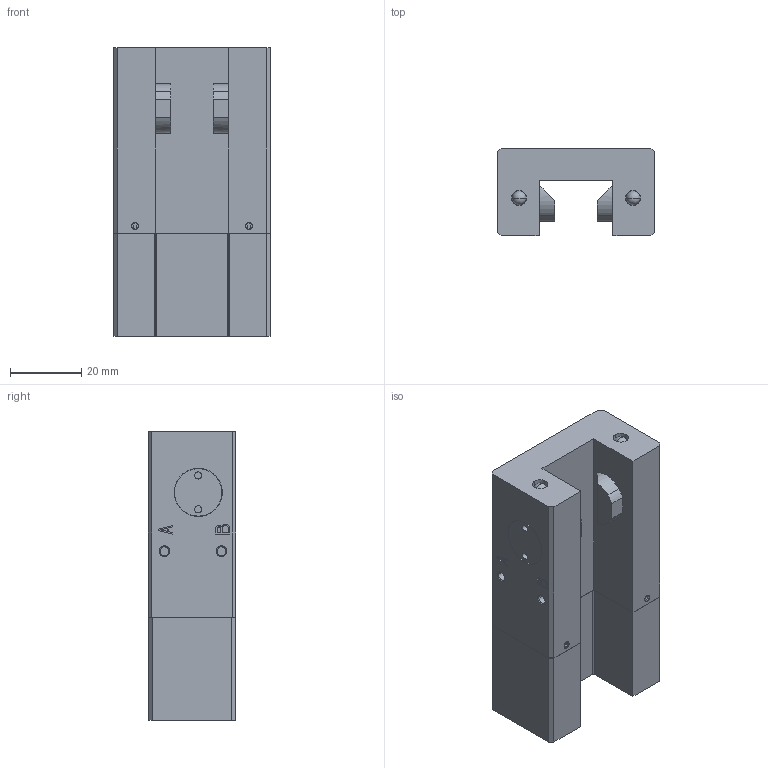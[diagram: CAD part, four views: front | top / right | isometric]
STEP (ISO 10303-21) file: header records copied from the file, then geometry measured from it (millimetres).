
FILE_DESCRIPTION( ( '' ), '1' );
FILE_NAME( 'E:/04 嬴檜蠱滌/0404 ZIMMER/040414 ZIMMER CAD download/LKPS/LKPS2005AS2---.stp', '2020-04-16T09:47:09', ( '' ), ( '' ), ' ', ' ', ' ' );
FILE_SCHEMA( ( 'automotive_design' ) );
Length unit declared in the file: millimetre
Products named in the file (1): 1
Bounding box: 44 x 24.5 x 80.9 mm (x, y, z)
Volume: 60862.8 mm3; surface area: 16513.7 mm2
Topology: 1 solids, 1 shells, 279 faces, 660 edges, 434 vertices
Faces by surface type: plane 175, cylinder 80, cone 16, sphere 4, torus 4
Entity records: 15720 total; most frequent: DIRECTION 1420, STYLED_ITEM 1370, PRESENTATION_STYLE_ASSIGNMENT 1370, CARTESIAN_POINT 1370, COLOUR_RGB 1370, ORIENTED_EDGE 1312, EDGE_CURVE 656, CURVE_STYLE 656
